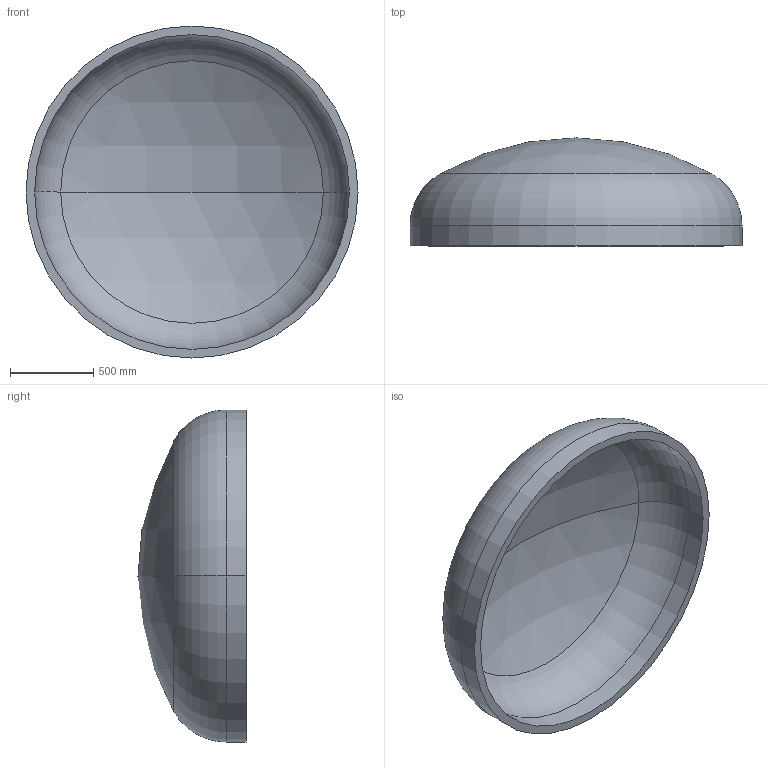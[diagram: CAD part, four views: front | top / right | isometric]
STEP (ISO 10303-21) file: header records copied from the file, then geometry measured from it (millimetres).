
FILE_DESCRIPTION (( 'STEP AP203' ), '1' );
FILE_NAME ('DIN 28013 Korbbogenform_-_Boden DIN 28013 - 2000 x 120 - I - s=52.step', '2016-07-01T13:57:11', ( '' ), ( '' ), 'SwSTEP 2.0', 'SolidWorks 2013', '' );
FILE_SCHEMA (( 'CONFIG_CONTROL_DESIGN' ));
Length unit declared in the file: millimetre
Products named in the file (1): DIN 28013 Korbbogenform_-_Boden DIN 28013 - 2000 x 120 - I - s=52
Bounding box: 2000 x 650.81 x 2000 mm (x, y, z)
Volume: 257146898.7 mm3; surface area: 10214156.3 mm2
Topology: 1 solids, 1 shells, 13 faces, 24 edges, 14 vertices
Faces by surface type: torus 4, cylinder 4, sphere 4, plane 1
Entity records: 407 total; most frequent: DIRECTION 72, CARTESIAN_POINT 52, ORIENTED_EDGE 48, AXIS2_PLACEMENT_3D 34, EDGE_CURVE 24, CIRCLE 20, VERTEX_POINT 14, EDGE_LOOP 14
